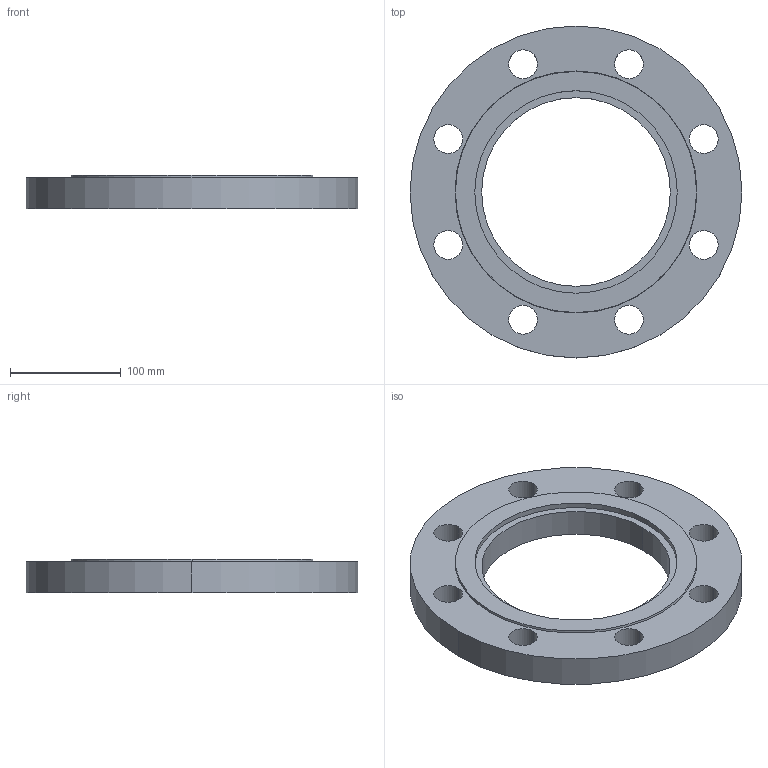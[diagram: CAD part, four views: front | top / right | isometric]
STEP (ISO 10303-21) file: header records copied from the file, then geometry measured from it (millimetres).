
FILE_DESCRIPTION (( 'STEP AP214' ), '1' );
FILE_NAME ('PN40 DN150 Type 01 - Type G Face.STEP', '2019-01-05T00:25:22', ( '' ), ( '' ), 'SwSTEP 2.0', 'SolidWorks 2019', '' );
FILE_SCHEMA (( 'AUTOMOTIVE_DESIGN' ));
Length unit declared in the file: millimetre
Products named in the file (1): PN40 DN150 Type 01 - Type G Face
Bounding box: 300 x 300 x 30 mm (x, y, z)
Volume: 1232863.5 mm3; surface area: 149316.2 mm2
Topology: 1 solids, 1 shells, 28 faces, 72 edges, 48 vertices
Faces by surface type: cylinder 22, plane 4, cone 2
Entity records: 954 total; most frequent: DIRECTION 178, CARTESIAN_POINT 149, ORIENTED_EDGE 144, AXIS2_PLACEMENT_3D 77, EDGE_CURVE 72, VERTEX_POINT 48, CIRCLE 48, EDGE_LOOP 48
